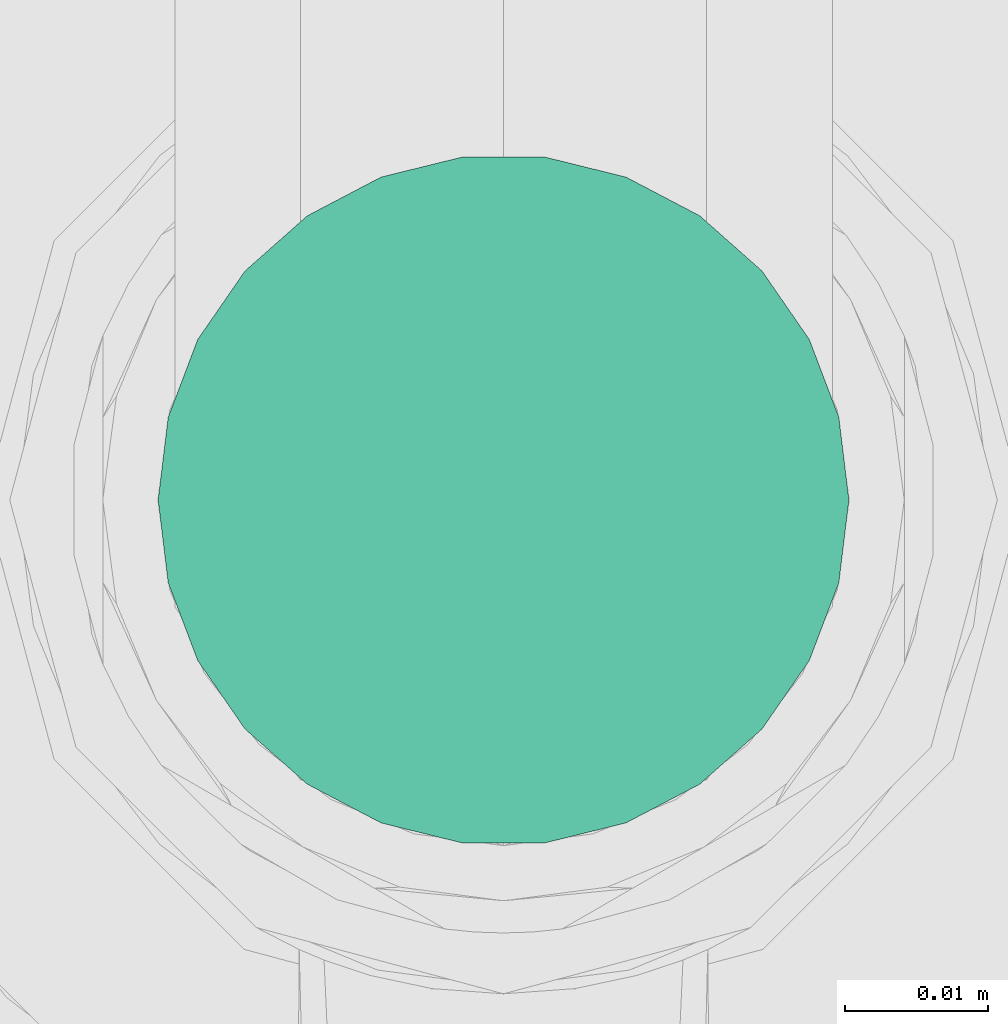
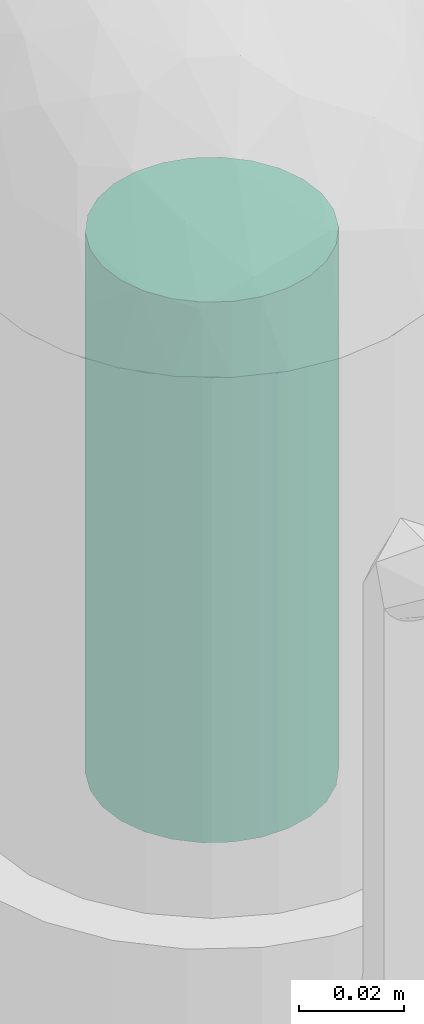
# One storey, part 83 of 94: 1 flow segment.
"""IFC2X3 building model written with IfcOpenShell, lengths in millimetres."""

from ifc_helpers import new_model, entity, si_unit, converted_unit, derived_unit, direction, frame, origin, origin_2d_with_axis, place, context, subcontext, project, spatial, circle, extrude, type_object, element, save


model = new_model("IFC2X3")

# Units and contexts
model_context = context("Model", 3, precision=0.01, world=origin(), true_north=direction((6.123031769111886e-17, 1.0)))
body_context = subcontext(model_context, "Body", "Model", "MODEL_VIEW")
ifc_project = project(units=[si_unit("LENGTHUNIT", "METRE", prefix="MILLI"), si_unit("AREAUNIT", "SQUARE_METRE"), si_unit("VOLUMEUNIT", "CUBIC_METRE"), converted_unit("PLANEANGLEUNIT", "DEGREE", entity("IfcRatioMeasure", 0.017453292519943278), si_unit("PLANEANGLEUNIT", "RADIAN"), dimensions=[0, 0, 0, 0, 0, 0, 0]), si_unit("MASSUNIT", "GRAM", prefix="KILO"), derived_unit("MASSDENSITYUNIT", [(si_unit("MASSUNIT", "GRAM", prefix="KILO"), 1), (si_unit("LENGTHUNIT", "METRE"), -3)]), derived_unit("IONCONCENTRATIONUNIT", [(si_unit("MASSUNIT", "GRAM", prefix="KILO"), 1), (si_unit("LENGTHUNIT", "METRE"), -3)]), derived_unit("MOMENTOFINERTIAUNIT", [(si_unit("LENGTHUNIT", "METRE"), 4)]), si_unit("TIMEUNIT", "SECOND"), si_unit("FREQUENCYUNIT", "HERTZ"), si_unit("THERMODYNAMICTEMPERATUREUNIT", "DEGREE_CELSIUS"), derived_unit("THERMALTRANSMITTANCEUNIT", [(si_unit("MASSUNIT", "GRAM", prefix="KILO"), 1), (si_unit("THERMODYNAMICTEMPERATUREUNIT", "KELVIN"), -1), (si_unit("TIMEUNIT", "SECOND"), -3)]), derived_unit("THERMALCONDUCTANCEUNIT", [(si_unit("MASSUNIT", "GRAM", prefix="KILO"), 1), (si_unit("THERMODYNAMICTEMPERATUREUNIT", "KELVIN"), -1), (si_unit("TIMEUNIT", "SECOND"), -3), (si_unit("LENGTHUNIT", "METRE"), 1)]), derived_unit("VOLUMETRICFLOWRATEUNIT", [(si_unit("LENGTHUNIT", "METRE"), 3), (si_unit("TIMEUNIT", "SECOND"), -1)]), derived_unit("MASSFLOWRATEUNIT", [(si_unit("MASSUNIT", "GRAM", prefix="KILO"), 1), (si_unit("TIMEUNIT", "SECOND"), -1)]), derived_unit("ROTATIONALFREQUENCYUNIT", [(si_unit("TIMEUNIT", "SECOND"), -1)]), si_unit("ELECTRICCURRENTUNIT", "AMPERE"), si_unit("ELECTRICVOLTAGEUNIT", "VOLT"), si_unit("POWERUNIT", "WATT"), si_unit("FORCEUNIT", "NEWTON", prefix="KILO"), si_unit("ILLUMINANCEUNIT", "LUX"), si_unit("LUMINOUSFLUXUNIT", "LUMEN"), si_unit("LUMINOUSINTENSITYUNIT", "CANDELA"), derived_unit("USERDEFINED", [(si_unit("MASSUNIT", "GRAM", prefix="KILO"), -1), (si_unit("LENGTHUNIT", "METRE"), -2), (si_unit("TIMEUNIT", "SECOND"), 3), (si_unit("LUMINOUSFLUXUNIT", "LUMEN"), 1)]), derived_unit("USERDEFINED", [(si_unit("MASSUNIT", "GRAM", prefix="KILO"), 1), (si_unit("TIMEUNIT", "SECOND"), -3), (si_unit("LENGTHUNIT", "METRE"), 3), (si_unit("ELECTRICCURRENTUNIT", "AMPERE"), -2)]), derived_unit("SOUNDPOWERUNIT", [(si_unit("MASSUNIT", "GRAM", prefix="KILO"), 1), (si_unit("TIMEUNIT", "SECOND"), -3), (si_unit("LENGTHUNIT", "METRE"), 2)]), derived_unit("SOUNDPRESSUREUNIT", [(si_unit("MASSUNIT", "GRAM", prefix="KILO"), 1), (si_unit("LENGTHUNIT", "METRE"), -1), (si_unit("TIMEUNIT", "SECOND"), -2)]), derived_unit("LINEARVELOCITYUNIT", [(si_unit("LENGTHUNIT", "METRE"), 1), (si_unit("TIMEUNIT", "SECOND"), -1)]), si_unit("PRESSUREUNIT", "PASCAL"), derived_unit("USERDEFINED", [(si_unit("MASSUNIT", "GRAM", prefix="KILO"), 1), (si_unit("LENGTHUNIT", "METRE"), -2), (si_unit("TIMEUNIT", "SECOND"), -2)]), derived_unit("LINEARFORCEUNIT", [(si_unit("MASSUNIT", "GRAM", prefix="KILO"), 1), (si_unit("TIMEUNIT", "SECOND"), -2)]), derived_unit("PLANARFORCEUNIT", [(si_unit("MASSUNIT", "GRAM", prefix="KILO"), 1), (si_unit("LENGTHUNIT", "METRE"), -1), (si_unit("TIMEUNIT", "SECOND"), -2)]), derived_unit("SPECIFICHEATCAPACITYUNIT", [(si_unit("THERMODYNAMICTEMPERATUREUNIT", "KELVIN"), -1), (si_unit("LENGTHUNIT", "METRE"), 2), (si_unit("TIMEUNIT", "SECOND"), -2)]), derived_unit("HEATINGVALUEUNIT", [(si_unit("LENGTHUNIT", "METRE"), 2), (si_unit("TIMEUNIT", "SECOND"), -2)]), derived_unit("VAPORPERMEABILITYUNIT", [(si_unit("LENGTHUNIT", "METRE"), -1), (si_unit("TIMEUNIT", "SECOND"), 1)]), derived_unit("DYNAMICVISCOSITYUNIT", [(si_unit("MASSUNIT", "GRAM", prefix="KILO"), 1), (si_unit("TIMEUNIT", "SECOND"), -1), (si_unit("LENGTHUNIT", "METRE"), -1)]), derived_unit("THERMALEXPANSIONCOEFFICIENTUNIT", [(si_unit("THERMODYNAMICTEMPERATUREUNIT", "KELVIN"), -1)]), derived_unit("MODULUSOFELASTICITYUNIT", [(si_unit("MASSUNIT", "GRAM", prefix="KILO"), 1), (si_unit("LENGTHUNIT", "METRE"), -1), (si_unit("TIMEUNIT", "SECOND"), -2)]), derived_unit("ISOTHERMALMOISTURECAPACITYUNIT", [(si_unit("LENGTHUNIT", "METRE"), 3), (si_unit("MASSUNIT", "GRAM", prefix="KILO"), -1)]), derived_unit("MOISTUREDIFFUSIVITYUNIT", [(si_unit("TIMEUNIT", "SECOND"), -1), (si_unit("LENGTHUNIT", "METRE"), 2)])], contexts=[model_context])

# Site, building, storey
site_placement = place(None, origin())
site = spatial("IfcSite", under=ifc_project, at=site_placement, Name="Default", CompositionType="ELEMENT")
building_placement = place(site_placement, origin())
building = spatial("IfcBuilding", under=site, at=building_placement, CompositionType="ELEMENT")
storey_placement = place(building_placement, origin())
storey = spatial("IfcBuildingStorey", under=building, at=storey_placement, Name="Niveau 0", CompositionType="ELEMENT", Elevation=0.0)

# Flow segment
pipe_segment_type = type_object("IfcPipeSegmentType", Name="Canalisation:Bride acier", PredefinedType="NOTDEFINED")
flow_segment_placement = place(storey_placement, origin())
element("IfcFlowSegment", 1, at=flow_segment_placement, inside=storey, type_object=pipe_segment_type, Name="Canalisation:Bride acier", ObjectType="Canalisation:Bride acier", context=body_context, shape_type="SweptSolid", body=[
    extrude(circle(Radius=24.13, at=origin_2d_with_axis()), frame((-8072.145865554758, 9922.470546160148, 2286.4652211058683)), (0.0, 0.0, 1.0), 125.53477889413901),
])

save(model, "model.ifc")
